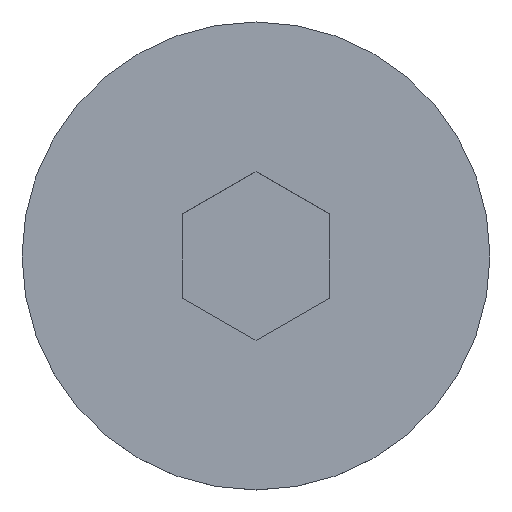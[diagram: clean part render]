
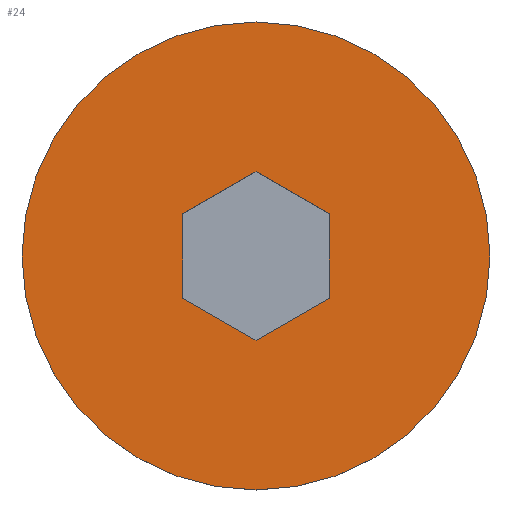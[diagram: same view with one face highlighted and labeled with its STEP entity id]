
A CAD part, top view. The second image highlights one B-rep face of the part: STEP entity #24.
In plain terms, the highlighted planar face has unit normal (0, 0, 1).
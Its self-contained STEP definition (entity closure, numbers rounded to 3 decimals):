
#4 = AXIS2_PLACEMENT_3D ( 'NONE', #366, #38, #77 ) ;
#9 = VERTEX_POINT ( 'NONE', #341 ) ;
#17 = VECTOR ( 'NONE', #299, 1000. ) ;
#19 = CARTESIAN_POINT ( 'NONE',  ( 3., 1.732, 5.22 ) ) ;
#21 = FACE_OUTER_BOUND ( 'NONE', #426, .T. ) ;
#24 = ADVANCED_FACE ( 'NONE', ( #418, #21 ), #120, .T. ) ;
#38 = DIRECTION ( 'NONE',  ( 0., 0., -1. ) ) ;
#48 = VECTOR ( 'NONE', #204, 1000. ) ;
#60 = ORIENTED_EDGE ( 'NONE', *, *, #235, .F. ) ;
#62 = CARTESIAN_POINT ( 'NONE',  ( 3., -1.732, 5.22 ) ) ;
#71 = CARTESIAN_POINT ( 'NONE',  ( 0., 0., 5.22 ) ) ;
#72 = DIRECTION ( 'NONE',  ( -1., 0., 0. ) ) ;
#77 = DIRECTION ( 'NONE',  ( -1., 0., 0. ) ) ;
#84 = CIRCLE ( 'NONE', #327, 9.61 ) ;
#89 = VERTEX_POINT ( 'NONE', #127 ) ;
#106 = EDGE_CURVE ( 'NONE', #89, #9, #259, .T. ) ;
#112 = DIRECTION ( 'NONE',  ( 0., 0., -1. ) ) ;
#115 = LINE ( 'NONE', #430, #244 ) ;
#116 = CARTESIAN_POINT ( 'NONE',  ( -3., -1.732, 5.22 ) ) ;
#120 = PLANE ( 'NONE',  #189 ) ;
#127 = CARTESIAN_POINT ( 'NONE',  ( 0., 3.464, 5.22 ) ) ;
#135 = ORIENTED_EDGE ( 'NONE', *, *, #414, .F. ) ;
#142 = VERTEX_POINT ( 'NONE', #355 ) ;
#143 = DIRECTION ( 'NONE',  ( 0., 1., 0. ) ) ;
#151 = VERTEX_POINT ( 'NONE', #416 ) ;
#160 = EDGE_CURVE ( 'NONE', #390, #89, #263, .T. ) ;
#178 = CARTESIAN_POINT ( 'NONE',  ( 0., -3.464, 5.22 ) ) ;
#185 = LINE ( 'NONE', #178, #17 ) ;
#186 = EDGE_CURVE ( 'NONE', #328, #206, #185, .T. ) ;
#189 = AXIS2_PLACEMENT_3D ( 'NONE', #439, #209, #248 ) ;
#190 = CARTESIAN_POINT ( 'NONE',  ( 0., -3.464, 5.22 ) ) ;
#194 = LINE ( 'NONE', #116, #48 ) ;
#204 = DIRECTION ( 'NONE',  ( 0.866, -0.5, 0. ) ) ;
#206 = VERTEX_POINT ( 'NONE', #62 ) ;
#207 = EDGE_CURVE ( 'NONE', #142, #151, #84, .T. ) ;
#209 = DIRECTION ( 'NONE',  ( 0., 0., 1. ) ) ;
#225 = ORIENTED_EDGE ( 'NONE', *, *, #387, .F. ) ;
#229 = CARTESIAN_POINT ( 'NONE',  ( 3., -1.732, 5.22 ) ) ;
#231 = ORIENTED_EDGE ( 'NONE', *, *, #207, .F. ) ;
#235 = EDGE_CURVE ( 'NONE', #206, #390, #279, .T. ) ;
#237 = ORIENTED_EDGE ( 'NONE', *, *, #186, .F. ) ;
#240 = DIRECTION ( 'NONE',  ( 0., -1., 0. ) ) ;
#242 = ORIENTED_EDGE ( 'NONE', *, *, #160, .F. ) ;
#244 = VECTOR ( 'NONE', #240, 1000. ) ;
#248 = DIRECTION ( 'NONE',  ( 1., 0., 0. ) ) ;
#257 = CARTESIAN_POINT ( 'NONE',  ( 3., 1.732, 5.22 ) ) ;
#259 = LINE ( 'NONE', #323, #282 ) ;
#263 = LINE ( 'NONE', #257, #412 ) ;
#279 = LINE ( 'NONE', #229, #312 ) ;
#282 = VECTOR ( 'NONE', #344, 1000. ) ;
#292 = DIRECTION ( 'NONE',  ( -0.866, 0.5, 0. ) ) ;
#298 = CIRCLE ( 'NONE', #4, 9.61 ) ;
#299 = DIRECTION ( 'NONE',  ( 0.866, 0.5, 0. ) ) ;
#312 = VECTOR ( 'NONE', #143, 1000. ) ;
#318 = EDGE_CURVE ( 'NONE', #151, #142, #298, .T. ) ;
#323 = CARTESIAN_POINT ( 'NONE',  ( 0., 3.464, 5.22 ) ) ;
#324 = EDGE_LOOP ( 'NONE', ( #242, #60, #237, #135, #225, #357 ) ) ;
#327 = AXIS2_PLACEMENT_3D ( 'NONE', #71, #112, #72 ) ;
#328 = VERTEX_POINT ( 'NONE', #190 ) ;
#341 = CARTESIAN_POINT ( 'NONE',  ( -3., 1.732, 5.22 ) ) ;
#344 = DIRECTION ( 'NONE',  ( -0.866, -0.5, 0. ) ) ;
#345 = VERTEX_POINT ( 'NONE', #368 ) ;
#355 = CARTESIAN_POINT ( 'NONE',  ( 9.61, 0., 5.22 ) ) ;
#357 = ORIENTED_EDGE ( 'NONE', *, *, #106, .F. ) ;
#366 = CARTESIAN_POINT ( 'NONE',  ( 0., 0., 5.22 ) ) ;
#368 = CARTESIAN_POINT ( 'NONE',  ( -3., -1.732, 5.22 ) ) ;
#387 = EDGE_CURVE ( 'NONE', #9, #345, #115, .T. ) ;
#390 = VERTEX_POINT ( 'NONE', #19 ) ;
#408 = ORIENTED_EDGE ( 'NONE', *, *, #318, .F. ) ;
#412 = VECTOR ( 'NONE', #292, 1000. ) ;
#414 = EDGE_CURVE ( 'NONE', #345, #328, #194, .T. ) ;
#416 = CARTESIAN_POINT ( 'NONE',  ( -9.61, 0., 5.22 ) ) ;
#418 = FACE_BOUND ( 'NONE', #324, .T. ) ;
#426 = EDGE_LOOP ( 'NONE', ( #408, #231 ) ) ;
#430 = CARTESIAN_POINT ( 'NONE',  ( -3., 1.732, 5.22 ) ) ;
#439 = CARTESIAN_POINT ( 'NONE',  ( -9.61, 0., 5.22 ) ) ;
